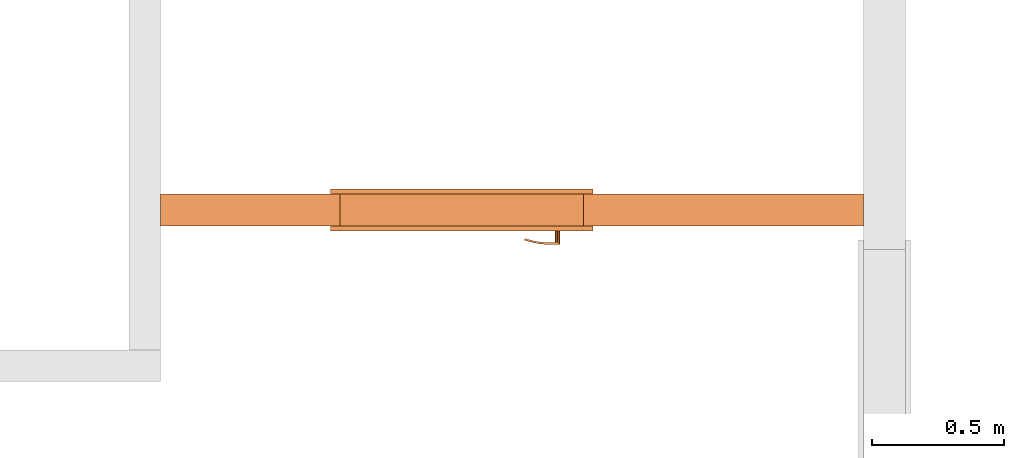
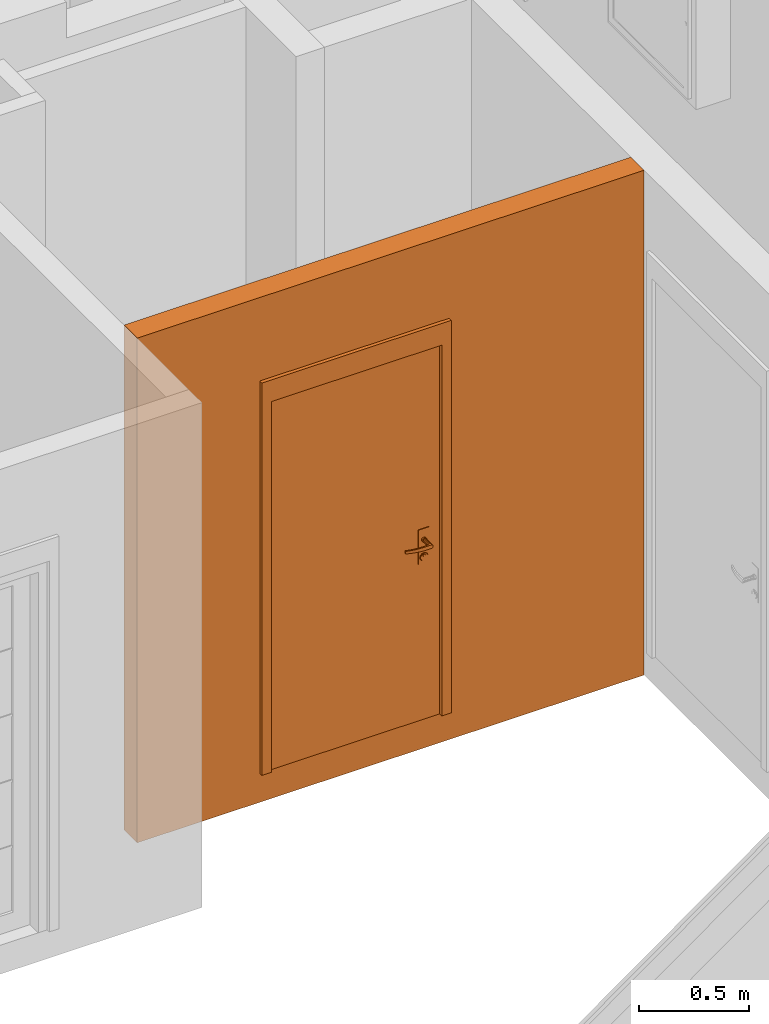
# One storey, part 30 of 66: 2 proxies, 1 opening.
"""IFC2X3 building model written with IfcOpenShell, lengths in millimetres."""

from ifc_helpers import new_model, entity, si_unit, converted_unit, derived_unit, money_unit, direction, frame, origin_with_axes, origin_2d_with_axis, place, context, subcontext, project, spatial, rectangle, extrude, open_shell, faceted_brep, surface_model, source, transform, mapped, material, type_object, element, fill, save


model = new_model("IFC2X3")

# Units and contexts
model_context = context("Model", 3, precision=0.01, world=origin_with_axes(), true_north=direction((0.34421633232, 0.938890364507)))
body_context = subcontext(model_context, "Body", "Model", "MODEL_VIEW")
ifc_project = project(units=[si_unit("LENGTHUNIT", "METRE", prefix="MILLI"), si_unit("AREAUNIT", "SQUARE_METRE"), si_unit("VOLUMEUNIT", "CUBIC_METRE"), converted_unit("PLANEANGLEUNIT", "DEGREE", entity("IfcPlaneAngleMeasure", 0.0174532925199), si_unit("PLANEANGLEUNIT", "RADIAN"), dimensions=[0, 0, 0, 0, 0, 0, 0]), si_unit("SOLIDANGLEUNIT", "STERADIAN"), money_unit("USD"), converted_unit("TIMEUNIT", "Year", entity("IfcTimeMeasure", 31556926.0), si_unit("TIMEUNIT", "SECOND"), dimensions=[0, 0, 1, 0, 0, 0, 0]), si_unit("MASSUNIT", "GRAM", prefix="KILO"), si_unit("THERMODYNAMICTEMPERATUREUNIT", "DEGREE_CELSIUS"), si_unit("LUMINOUSINTENSITYUNIT", "LUMEN"), si_unit("ENERGYUNIT", "JOULE", prefix="MEGA"), derived_unit("THERMALCONDUCTANCEUNIT", [(si_unit("POWERUNIT", "WATT"), 1), (si_unit("LENGTHUNIT", "METRE"), -1), (si_unit("THERMODYNAMICTEMPERATUREUNIT", "KELVIN"), -1)]), derived_unit("SPECIFICHEATCAPACITYUNIT", [(si_unit("ENERGYUNIT", "JOULE"), 1), (si_unit("MASSUNIT", "GRAM", prefix="KILO"), -1), (si_unit("THERMODYNAMICTEMPERATUREUNIT", "KELVIN"), -1)]), derived_unit("MASSDENSITYUNIT", [(si_unit("MASSUNIT", "GRAM", prefix="KILO"), 1), (si_unit("VOLUMEUNIT", "CUBIC_METRE"), -1)])], contexts=[model_context])

# Site, building, storey
site_placement = place(None, origin_with_axes())
site = spatial("IfcSite", under=ifc_project, at=site_placement, Name="USTRONIE MORSKIE", CompositionType="ELEMENT")
building_placement = place(site_placement, origin_with_axes())
building = spatial("IfcBuilding", under=site, at=building_placement, Name="Budynek", CompositionType="ELEMENT")
storey_placement = place(building_placement, frame((0.0, 0.0, 10000.0), z_axis=(0.0, 0.0, 1.0), x_axis=(1.0, 0.0, 0.0)))
storey = spatial("IfcBuildingStorey", under=building, at=storey_placement, Name="PIĘTRO 3", CompositionType="ELEMENT", Elevation=10000.0)

# Proxies, opening
ifc_material = material(Name="Bloczki silikatowe")
building_element_proxy_type_1 = type_object("IfcBuildingElementProxyType", Name="Bloczki silikatowe 120", PredefinedType="NOTDEFINED")
proxy_1_placement = place(storey_placement, frame((413217.920919, 724641.179437, -160.0), z_axis=(0.0, 0.0, 1.0), x_axis=(1.0, 0.0, 0.0)))
proxy_1 = element("IfcBuildingElementProxy", 1, at=proxy_1_placement, inside=storey, type_object=building_element_proxy_type_1, material=ifc_material, Name="SW-04", context=body_context, shape_type="Brep", body=[
    faceted_brep([(2720.0, -59.9999999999, 2800.0), (2720.0, 59.9999999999, 2800.0), (60.0, 59.9999999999, 2800.0), (60.0, -59.9999999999, 2800.0), (2720.0, -59.9999999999, 0.0), (2720.0, 59.9999999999, 0.0), (60.0, 59.9999999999, 0.0), (60.0, -59.9999999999, 0.0)], [[[0, 1, 2, 3]], [[1, 0, 4, 5]], [[1, 5, 6, 2]], [[7, 3, 2, 6]], [[4, 0, 3, 7]], [[5, 4, 7, 6]]]),
])
opening_placement = place(proxy_1_placement, frame((1200.0, -1.13686837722e-10, 160.0), z_axis=(0.0, 0.0, 1.0), x_axis=(1.0, 0.0, 0.0)))
opening = element("IfcOpeningElement", 2, at=opening_placement, cuts=proxy_1, Name="Dw.4", context=body_context, shape_type="SweptSolid", body=[
    extrude(rectangle(XDim=920.0, YDim=2070.0, at=origin_2d_with_axis()), frame((0.0, 120.0, 1035.0), z_axis=(0.0, -1.0, 0.0), x_axis=(-1.0, 0.0, 0.0)), (0.0, 0.0, 1.0), 360.0),
    extrude(rectangle(XDim=994.0, YDim=2177.0, at=origin_2d_with_axis()), frame((0.0, 60.0000000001, 1088.5), z_axis=(0.0, -1.0, 0.0), x_axis=(-1.0, 0.0, 0.0)), (0.0, 0.0, -1.0), 120.0),
    extrude(rectangle(XDim=994.0, YDim=2177.0, at=origin_2d_with_axis()), frame((0.0, -59.9999999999, 1088.5), z_axis=(0.0, 1.0, 0.0), x_axis=(-1.0, 0.0, 0.0)), (0.0, 0.0, -1.0), 120.0),
])
building_element_proxy_type_2 = type_object("IfcBuildingElementProxyType", Name="Drzwi 23", PredefinedType="NOTDEFINED")
shared_shape = source(origin_with_axes(), body_context, "Body", "SurfaceModel", [
    faceted_brep([(-460.0, -115.0, 0.0), (-435.0, -115.0, 0.0), (-435.0, -120.0, 0.0), (-460.0, -120.0, 0.0), (-460.0, -115.0, 2070.0), (-435.0, -115.0, 2045.0), (-435.0, -120.0, 2045.0), (-460.0, -120.0, 2070.0)], [[[0, 1, 2, 3]], [[0, 4, 5, 1]], [[1, 5, 6, 2]], [[3, 2, 6, 7]], [[4, 0, 3, 7]], [[5, 4, 7, 6]]]),
    faceted_brep([(460.0, -115.0, 2070.0), (435.0, -115.0, 2045.0), (435.0, -120.0, 2045.0), (460.0, -120.0, 2070.0), (460.0, -115.0, 0.0), (435.0, -115.0, 0.0), (435.0, -120.0, 0.0), (460.0, -120.0, 0.0)], [[[0, 1, 2, 3]], [[0, 4, 5, 1]], [[1, 5, 6, 2]], [[3, 2, 6, 7]], [[4, 0, 3, 7]], [[5, 4, 7, 6]]]),
    faceted_brep([(-435.0, -115.0, 2045.0), (435.0, -115.0, 2045.0), (435.0, -120.0, 2045.0), (-435.0, -120.0, 2045.0), (-460.0, -115.0, 2070.0), (460.0, -115.0, 2070.0), (460.0, -120.0, 2070.0), (-460.0, -120.0, 2070.0)], [[[0, 1, 2, 3]], [[0, 4, 5, 1]], [[1, 5, 6, 2]], [[3, 2, 6, 7]], [[4, 0, 3, 7]], [[5, 4, 7, 6]]]),
    faceted_brep([(-497.0, -139.0, 0.0), (-497.0, -120.0, 0.0), (-447.0, -120.0, 0.0), (-447.0, -139.0, 0.0), (-497.0, -139.0, 2177.0), (-497.0, -120.0, 2177.0), (-447.0, -120.0, 2057.0), (-447.0, -139.0, 2057.0)], [[[0, 1, 2, 3]], [[4, 5, 1, 0]], [[1, 5, 6, 2]], [[3, 2, 6, 7]], [[0, 3, 7, 4]], [[7, 6, 5, 4]]]),
    faceted_brep([(497.0, -139.0, 2177.0), (497.0, -120.0, 2177.0), (447.0, -120.0, 2057.0), (447.0, -139.0, 2057.0), (497.0, -139.0, 0.0), (497.0, -120.0, 0.0), (447.0, -120.0, 0.0), (447.0, -139.0, 0.0)], [[[0, 1, 2, 3]], [[4, 5, 1, 0]], [[1, 5, 6, 2]], [[3, 2, 6, 7]], [[0, 3, 7, 4]], [[7, 6, 5, 4]]]),
    faceted_brep([(-497.0, -139.0, 2177.0), (-497.0, -120.0, 2177.0), (-447.0, -120.0, 2057.0), (-447.0, -139.0, 2057.0), (497.0, -139.0, 2177.0), (497.0, -120.0, 2177.0), (447.0, -120.0, 2057.0), (447.0, -139.0, 2057.0)], [[[0, 1, 2, 3]], [[4, 5, 1, 0]], [[1, 5, 6, 2]], [[3, 2, 6, 7]], [[0, 3, 7, 4]], [[7, 6, 5, 4]]]),
    faceted_brep([(-497.0, 19.0, 0.0), (-447.0, 19.0, 0.0), (-447.0, 0.0, 0.0), (-497.0, 0.0, 0.0), (-497.0, 19.0, 2177.0), (-447.0, 19.0, 2057.0), (-447.0, 0.0, 2057.0), (-497.0, 0.0, 2177.0)], [[[0, 1, 2, 3]], [[0, 4, 5, 1]], [[1, 5, 6, 2]], [[3, 2, 6, 7]], [[4, 0, 3, 7]], [[5, 4, 7, 6]]]),
    faceted_brep([(497.0, 19.0, 2177.0), (447.0, 19.0, 2057.0), (447.0, 0.0, 2057.0), (497.0, 0.0, 2177.0), (497.0, 19.0, 0.0), (447.0, 19.0, 0.0), (447.0, 0.0, 0.0), (497.0, 0.0, 0.0)], [[[0, 1, 2, 3]], [[0, 4, 5, 1]], [[1, 5, 6, 2]], [[3, 2, 6, 7]], [[4, 0, 3, 7]], [[5, 4, 7, 6]]]),
    faceted_brep([(-497.0, 19.0, 2177.0), (-447.0, 19.0, 2057.0), (-447.0, 0.0, 2057.0), (-497.0, 0.0, 2177.0), (497.0, 19.0, 2177.0), (447.0, 19.0, 2057.0), (447.0, 0.0, 2057.0), (497.0, 0.0, 2177.0)], [[[0, 1, 2, 3]], [[0, 4, 5, 1]], [[1, 5, 6, 2]], [[3, 2, 6, 7]], [[4, 0, 3, 7]], [[5, 4, 7, 6]]]),
    faceted_brep([(-400.0, -40.0, 0.0), (-400.0, -40.0, 2000.0), (-400.0, -115.0, 2000.0), (-400.0, -115.0, 0.0), (-412.0, -40.0, 2000.0), (-412.0, -40.0, 0.0), (-412.0, 0.0, 2000.0), (-460.0, 0.0, 2000.0), (-460.0, -115.0, 2000.0), (-460.0, -115.0, 0.0), (-460.0, 0.0, 0.0), (-412.0, 0.0, 0.0)], [[[0, 1, 2, 3]], [[4, 1, 0, 5]], [[4, 6, 7, 8, 2, 1]], [[3, 2, 8, 9]], [[5, 0, 3, 9, 10, 11]], [[6, 4, 5, 11]], [[6, 11, 10, 7]], [[10, 9, 8, 7]]]),
    faceted_brep([(412.0, -40.0, 2000.0), (400.0, -40.0, 2000.0), (400.0, -115.0, 2000.0), (460.0, -115.0, 2000.0), (460.0, 0.0, 2000.0), (412.0, 0.0, 2000.0), (412.0, -40.0, 0.0), (400.0, -40.0, 0.0), (400.0, -115.0, 0.0), (460.0, -115.0, 0.0), (460.0, 0.0, 0.0), (412.0, 0.0, 0.0)], [[[0, 1, 2, 3, 4, 5]], [[1, 0, 6, 7]], [[1, 7, 8, 2]], [[3, 2, 8, 9]], [[4, 3, 9, 10]], [[11, 5, 4, 10]], [[0, 5, 11, 6]], [[6, 11, 10, 9, 8, 7]]]),
    faceted_brep([(-412.0, 0.0, 2012.0), (-412.0, 0.0, 2000.0), (-460.0, 0.0, 2000.0), (-460.0, 0.0, 2070.0), (460.0, 0.0, 2070.0), (460.0, 0.0, 2000.0), (412.0, 0.0, 2000.0), (412.0, 0.0, 2012.0), (-412.0, -40.0, 2012.0), (-412.0, -40.0, 2000.0), (-400.0, -40.0, 2000.0), (-400.0, -115.0, 2000.0), (-460.0, -115.0, 2000.0), (-460.0, -115.0, 2070.0), (460.0, -115.0, 2070.0), (460.0, -115.0, 2000.0), (412.0, -40.0, 2000.0), (400.0, -115.0, 2000.0), (400.0, -40.0, 2000.0), (412.0, -40.0, 2012.0)], [[[0, 1, 2, 3, 4, 5, 6, 7]], [[1, 0, 8, 9]], [[9, 10, 11, 12, 2, 1]], [[2, 12, 13, 3]], [[3, 13, 14, 4]], [[4, 14, 15, 5]], [[16, 6, 5, 15, 17, 18]], [[7, 6, 16, 19]], [[0, 7, 19, 8]], [[16, 18, 10, 9, 8, 19]], [[10, 18, 17, 11]], [[17, 15, 14, 13, 12, 11]]]),
    faceted_brep([(-390.5, -40.0, 1060.0), (-390.5, -43.0, 1060.0), (-333.5, -43.0, 1060.0), (-333.5, -40.0, 1060.0), (-390.5, -40.0, 870.0), (-390.5, -43.0, 870.0), (-333.5, -43.0, 870.0), (-333.5, -40.0, 870.0)], [[[0, 1, 2, 3]], [[4, 5, 1, 0]], [[1, 5, 6, 2]], [[3, 2, 6, 7]], [[0, 3, 7, 4]], [[7, 6, 5, 4]]]),
    faceted_brep([(-362.0, -104.0, 990.0), (-362.0, -111.0, 990.0), (-367.0, -111.0, 991.339745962), (-367.0, -104.0, 991.339745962), (-337.0, -104.0, 990.0), (-337.0, -111.0, 990.0), (-337.0, -111.0, 1010.0), (-362.0, -111.0, 1010.0), (-367.0, -111.0, 1008.66025404), (-370.660254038, -111.0, 1005.0), (-372.0, -111.0, 1000.0), (-370.660254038, -111.0, 995.0), (-370.660254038, -104.0, 995.0), (-372.0, -104.0, 1000.0), (-370.660254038, -104.0, 1005.0), (-367.0, -104.0, 1008.66025404), (-362.0, -104.0, 1010.0), (-337.0, -104.0, 1010.0)], [[[0, 1, 2, 3]], [[4, 5, 1, 0]], [[1, 5, 6, 7, 8, 9, 10, 11, 2]], [[3, 2, 11, 12]], [[0, 3, 12, 13, 14, 15, 16, 17, 4]], [[17, 6, 5, 4]], [[16, 7, 6, 17]], [[15, 8, 7, 16]], [[14, 9, 8, 15]], [[13, 10, 9, 14]], [[12, 11, 10, 13]]]),
    surface_model("IfcShellBasedSurfaceModel", [(-337.0, -104.0, 1010.0), (-323.596090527, -111.0, 1009.60730092), (-323.901717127, -104.0, 1009.60730092), (-337.0, -111.0, 1010.0), (-296.890283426, -108.663544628, 1008.82190275), (-323.901717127, -104.0, 990.392699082), (-337.0, -104.0, 990.0), (-337.0, -111.0, 990.0), (-323.596090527, -111.0, 990.392699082), (-296.890283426, -108.663544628, 991.178097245), (-297.804837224, -101.716818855, 1008.82190275), (-297.804837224, -101.716818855, 991.178097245), (-270.489735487, -104.008415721, 991.963495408), (-270.489735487, -104.008415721, 1008.03650459), (-272.006256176, -97.1678329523, 1008.03650459), (-272.006256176, -97.1678329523, 991.963495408), (-244.59537082, -97.0700416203, 992.748893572), (-244.59537082, -97.0700416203, 1007.25110643), (-246.702316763, -90.3876628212, 1007.25110643), (-246.702316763, -90.3876628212, 992.748893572), (-236.538795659, -94.1376880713, 993.0), (-236.538795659, -94.1376880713, 1007.0), (-238.829442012, -87.5221707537, 1007.0), (-238.829442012, -87.5221707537, 993.0)], [open_shell([[[0, 1, 2]], [[0, 3, 1]], [[2, 1, 4]], [[0, 2, 5, 6]], [[3, 7, 8, 1]], [[1, 8, 9, 4]], [[2, 4, 10]], [[2, 10, 11, 5]], [[5, 7, 6]], [[5, 8, 7]], [[11, 9, 8]], [[4, 9, 12, 13]], [[10, 4, 13]], [[10, 14, 15, 11]], [[11, 8, 5]], [[15, 9, 11]], [[15, 12, 9]], [[13, 12, 16, 17]], [[10, 13, 14]], [[14, 18, 19, 15]], [[19, 12, 15]], [[19, 16, 12]], [[17, 16, 20, 21]], [[14, 13, 17]], [[14, 17, 18]], [[18, 22, 23, 19]], [[23, 16, 19]], [[23, 20, 16]], [[22, 21, 20, 23]], [[18, 17, 21]], [[18, 21, 22]]])]),
    faceted_brep([(-351.607695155, -53.0, 994.0), (-350.741669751, -43.0, 993.5), (-349.0, -43.0, 1000.0), (-350.0, -53.0, 1000.0), (-356.0, -53.0, 989.607695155), (-355.5, -43.0, 988.741669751), (-362.0, -43.0, 987.0), (-368.5, -43.0, 988.741669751), (-373.258330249, -43.0, 993.5), (-375.0, -43.0, 1000.0), (-373.258330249, -43.0, 1006.5), (-368.5, -43.0, 1011.25833025), (-362.0, -43.0, 1013.0), (-355.5, -43.0, 1011.25833025), (-350.741669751, -43.0, 1006.5), (-351.607695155, -53.0, 1006.0), (-356.0, -53.0, 1010.39230485), (-362.0, -53.0, 1012.0), (-368.0, -53.0, 1010.39230485), (-372.392304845, -53.0, 1006.0), (-374.0, -53.0, 1000.0), (-372.392304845, -53.0, 994.0), (-368.0, -53.0, 989.607695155), (-362.0, -53.0, 988.0)], [[[0, 1, 2, 3]], [[4, 5, 1, 0]], [[2, 1, 5, 6, 7, 8, 9, 10, 11, 12, 13, 14]], [[3, 2, 14, 15]], [[3, 15, 16, 17, 18, 19, 20, 21, 22, 23, 4, 0]], [[23, 6, 5, 4]], [[22, 7, 6, 23]], [[21, 8, 7, 22]], [[20, 9, 8, 21]], [[19, 10, 9, 20]], [[18, 11, 10, 19]], [[17, 12, 11, 18]], [[16, 13, 12, 17]], [[15, 14, 13, 16]]]),
    faceted_brep([(-344.679491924, -47.0, 895.0), (-342.947441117, -43.0, 894.0), (-340.0, -43.0, 905.0), (-342.0, -47.0, 905.0), (-352.0, -47.0, 887.679491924), (-351.0, -43.0, 885.947441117), (-362.0, -43.0, 883.0), (-373.0, -43.0, 885.947441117), (-381.052558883, -43.0, 894.0), (-384.0, -43.0, 905.0), (-381.052558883, -43.0, 916.0), (-373.0, -43.0, 924.052558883), (-362.0, -43.0, 927.0), (-351.0, -43.0, 924.052558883), (-342.947441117, -43.0, 916.0), (-344.679491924, -47.0, 915.0), (-352.0, -47.0, 922.320508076), (-362.0, -47.0, 925.0), (-372.0, -47.0, 922.320508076), (-379.320508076, -47.0, 915.0), (-382.0, -47.0, 905.0), (-379.320508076, -47.0, 895.0), (-372.0, -47.0, 887.679491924), (-362.0, -47.0, 885.0)], [[[0, 1, 2, 3]], [[4, 5, 1, 0]], [[2, 1, 5, 6, 7, 8, 9, 10, 11, 12, 13, 14]], [[3, 2, 14, 15]], [[3, 15, 16, 17, 18, 19, 20, 21, 22, 23, 4, 0]], [[23, 6, 5, 4]], [[22, 7, 6, 23]], [[21, 8, 7, 22]], [[20, 9, 8, 21]], [[19, 10, 9, 20]], [[18, 11, 10, 19]], [[17, 12, 11, 18]], [[16, 13, 12, 17]], [[15, 14, 13, 16]]]),
    faceted_brep([(-357.050252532, -49.0, 909.050252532), (-356.343145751, -47.0, 908.343145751), (-354.0, -47.0, 914.0), (-355.0, -49.0, 914.0), (-362.0, -49.0, 907.0), (-362.0, -47.0, 906.0), (-367.656854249, -47.0, 908.343145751), (-370.0, -47.0, 914.0), (-367.656854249, -47.0, 919.656854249), (-362.0, -47.0, 922.0), (-356.343145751, -47.0, 919.656854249), (-357.050252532, -49.0, 918.949747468), (-362.0, -49.0, 921.0), (-366.949747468, -49.0, 918.949747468), (-369.0, -49.0, 914.0), (-366.949747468, -49.0, 909.050252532)], [[[0, 1, 2, 3]], [[4, 5, 1, 0]], [[2, 1, 5, 6, 7, 8, 9, 10]], [[3, 2, 10, 11]], [[3, 11, 12, 13, 14, 15, 4, 0]], [[15, 6, 5, 4]], [[14, 7, 6, 15]], [[13, 8, 7, 14]], [[12, 9, 8, 13]], [[11, 10, 9, 12]]]),
    faceted_brep([(-362.0, -53.0, 1010.0), (-362.0, -104.0, 1010.0), (-357.0, -104.0, 1008.66025404), (-357.0, -53.0, 1008.66025404), (-367.0, -53.0, 1008.66025404), (-367.0, -104.0, 1008.66025404), (-370.660254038, -104.0, 1005.0), (-372.0, -104.0, 1000.0), (-370.660254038, -104.0, 995.0), (-367.0, -104.0, 991.339745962), (-362.0, -104.0, 990.0), (-357.0, -104.0, 991.339745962), (-353.339745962, -104.0, 995.0), (-352.0, -104.0, 1000.0), (-353.339745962, -104.0, 1005.0), (-353.339745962, -53.0, 1005.0), (-352.0, -53.0, 1000.0), (-353.339745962, -53.0, 995.0), (-357.0, -53.0, 991.339745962), (-362.0, -53.0, 990.0), (-367.0, -53.0, 991.339745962), (-370.660254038, -53.0, 995.0), (-372.0, -53.0, 1000.0), (-370.660254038, -53.0, 1005.0)], [[[0, 1, 2, 3]], [[4, 5, 1, 0]], [[1, 5, 6, 7, 8, 9, 10, 11, 12, 13, 14, 2]], [[3, 2, 14, 15]], [[0, 3, 15, 16, 17, 18, 19, 20, 21, 22, 23, 4]], [[23, 6, 5, 4]], [[22, 7, 6, 23]], [[21, 8, 7, 22]], [[20, 9, 8, 21]], [[19, 10, 9, 20]], [[18, 11, 10, 19]], [[17, 12, 11, 18]], [[16, 13, 12, 17]], [[15, 14, 13, 16]]]),
    faceted_brep([(-390.5, 0.0, 1060.0), (-333.5, 0.0, 1060.0), (-333.5, 3.0, 1060.0), (-390.5, 3.0, 1060.0), (-390.5, 0.0, 870.0), (-333.5, 0.0, 870.0), (-333.5, 3.0, 870.0), (-390.5, 3.0, 870.0)], [[[0, 1, 2, 3]], [[0, 4, 5, 1]], [[1, 5, 6, 2]], [[3, 2, 6, 7]], [[4, 0, 3, 7]], [[5, 4, 7, 6]]]),
    faceted_brep([(-362.0, 64.0, 990.0), (-367.0, 64.0, 991.339745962), (-367.0, 71.0, 991.339745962), (-362.0, 71.0, 990.0), (-337.0, 64.0, 990.0), (-337.0, 64.0, 1010.0), (-362.0, 64.0, 1010.0), (-367.0, 64.0, 1008.66025404), (-370.660254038, 64.0, 1005.0), (-372.0, 64.0, 1000.0), (-370.660254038, 64.0, 995.0), (-370.660254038, 71.0, 995.0), (-372.0, 71.0, 1000.0), (-370.660254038, 71.0, 1005.0), (-367.0, 71.0, 1008.66025404), (-362.0, 71.0, 1010.0), (-337.0, 71.0, 1010.0), (-337.0, 71.0, 990.0)], [[[0, 1, 2, 3]], [[0, 4, 5, 6, 7, 8, 9, 10, 1]], [[1, 10, 11, 2]], [[3, 2, 11, 12, 13, 14, 15, 16, 17]], [[4, 0, 3, 17]], [[5, 4, 17, 16]], [[6, 5, 16, 15]], [[7, 6, 15, 14]], [[8, 7, 14, 13]], [[9, 8, 13, 12]], [[10, 9, 12, 11]]]),
    surface_model("IfcShellBasedSurfaceModel", [(-337.0, 64.0, 1010.0), (-323.901717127, 64.0, 1009.60730092), (-323.596090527, 71.0, 1009.60730092), (-337.0, 64.0, 990.0), (-323.901717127, 64.0, 990.392699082), (-296.890283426, 68.6635446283, 1008.82190275), (-337.0, 71.0, 1010.0), (-337.0, 71.0, 990.0), (-297.804837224, 61.716818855, 991.178097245), (-297.804837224, 61.716818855, 1008.82190275), (-296.890283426, 68.6635446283, 991.178097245), (-323.596090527, 71.0, 990.392699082), (-272.006256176, 57.1678329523, 991.963495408), (-272.006256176, 57.1678329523, 1008.03650459), (-270.489735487, 64.0084157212, 1008.03650459), (-270.489735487, 64.0084157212, 991.963495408), (-246.702316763, 50.3876628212, 992.748893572), (-246.702316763, 50.3876628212, 1007.25110643), (-244.59537082, 57.0700416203, 1007.25110643), (-244.59537082, 57.0700416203, 992.748893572), (-238.829442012, 47.5221707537, 993.0), (-238.829442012, 47.5221707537, 1007.0), (-236.538795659, 54.1376880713, 1007.0), (-236.538795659, 54.1376880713, 993.0)], [open_shell([[[0, 1, 2]], [[0, 3, 4, 1]], [[1, 5, 2]], [[0, 2, 6]], [[4, 3, 7]], [[1, 4, 8, 9]], [[1, 9, 5]], [[2, 5, 10, 11]], [[6, 2, 11, 7]], [[4, 7, 11]], [[8, 4, 11]], [[9, 8, 12, 13]], [[9, 14, 5]], [[5, 14, 15, 10]], [[8, 11, 10]], [[12, 8, 10]], [[13, 12, 16, 17]], [[9, 13, 14]], [[14, 18, 19, 15]], [[12, 10, 15]], [[16, 12, 15]], [[17, 16, 20, 21]], [[13, 17, 18]], [[13, 18, 14]], [[18, 22, 23, 19]], [[16, 15, 19]], [[20, 16, 19]], [[21, 20, 23, 22]], [[17, 21, 22]], [[17, 22, 18]], [[20, 19, 23]]])]),
    faceted_brep([(-351.607695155, 13.0, 994.0), (-350.0, 13.0, 1000.0), (-349.0, 3.0, 1000.0), (-350.741669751, 3.0, 993.5), (-356.0, 13.0, 989.607695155), (-362.0, 13.0, 988.0), (-368.0, 13.0, 989.607695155), (-372.392304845, 13.0, 994.0), (-374.0, 13.0, 1000.0), (-372.392304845, 13.0, 1006.0), (-368.0, 13.0, 1010.39230485), (-362.0, 13.0, 1012.0), (-356.0, 13.0, 1010.39230485), (-351.607695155, 13.0, 1006.0), (-350.741669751, 3.0, 1006.5), (-355.5, 3.0, 1011.25833025), (-362.0, 3.0, 1013.0), (-368.5, 3.0, 1011.25833025), (-373.258330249, 3.0, 1006.5), (-375.0, 3.0, 1000.0), (-373.258330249, 3.0, 993.5), (-368.5, 3.0, 988.741669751), (-362.0, 3.0, 987.0), (-355.5, 3.0, 988.741669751)], [[[0, 1, 2, 3]], [[1, 0, 4, 5, 6, 7, 8, 9, 10, 11, 12, 13]], [[1, 13, 14, 2]], [[2, 14, 15, 16, 17, 18, 19, 20, 21, 22, 23, 3]], [[4, 0, 3, 23]], [[5, 4, 23, 22]], [[6, 5, 22, 21]], [[7, 6, 21, 20]], [[8, 7, 20, 19]], [[9, 8, 19, 18]], [[10, 9, 18, 17]], [[11, 10, 17, 16]], [[12, 11, 16, 15]], [[13, 12, 15, 14]]]),
    faceted_brep([(-344.679491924, 7.0, 895.0), (-342.0, 7.0, 905.0), (-340.0, 3.0, 905.0), (-342.947441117, 3.0, 894.0), (-352.0, 7.0, 887.679491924), (-362.0, 7.0, 885.0), (-372.0, 7.0, 887.679491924), (-379.320508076, 7.0, 895.0), (-382.0, 7.0, 905.0), (-379.320508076, 7.0, 915.0), (-372.0, 7.0, 922.320508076), (-362.0, 7.0, 925.0), (-352.0, 7.0, 922.320508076), (-344.679491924, 7.0, 915.0), (-342.947441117, 3.0, 916.0), (-351.0, 3.0, 924.052558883), (-362.0, 3.0, 927.0), (-373.0, 3.0, 924.052558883), (-381.052558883, 3.0, 916.0), (-384.0, 3.0, 905.0), (-381.052558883, 3.0, 894.0), (-373.0, 3.0, 885.947441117), (-362.0, 3.0, 883.0), (-351.0, 3.0, 885.947441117)], [[[0, 1, 2, 3]], [[1, 0, 4, 5, 6, 7, 8, 9, 10, 11, 12, 13]], [[1, 13, 14, 2]], [[2, 14, 15, 16, 17, 18, 19, 20, 21, 22, 23, 3]], [[4, 0, 3, 23]], [[5, 4, 23, 22]], [[6, 5, 22, 21]], [[7, 6, 21, 20]], [[8, 7, 20, 19]], [[9, 8, 19, 18]], [[10, 9, 18, 17]], [[11, 10, 17, 16]], [[12, 11, 16, 15]], [[13, 12, 15, 14]]]),
    faceted_brep([(-357.050252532, 9.0, 909.050252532), (-355.0, 9.0, 914.0), (-354.0, 7.0, 914.0), (-356.343145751, 7.0, 908.343145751), (-362.0, 9.0, 907.0), (-366.949747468, 9.0, 909.050252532), (-369.0, 9.0, 914.0), (-366.949747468, 9.0, 918.949747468), (-362.0, 9.0, 921.0), (-357.050252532, 9.0, 918.949747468), (-356.343145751, 7.0, 919.656854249), (-362.0, 7.0, 922.0), (-367.656854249, 7.0, 919.656854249), (-370.0, 7.0, 914.0), (-367.656854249, 7.0, 908.343145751), (-362.0, 7.0, 906.0)], [[[0, 1, 2, 3]], [[1, 0, 4, 5, 6, 7, 8, 9]], [[1, 9, 10, 2]], [[2, 10, 11, 12, 13, 14, 15, 3]], [[4, 0, 3, 15]], [[5, 4, 15, 14]], [[6, 5, 14, 13]], [[7, 6, 13, 12]], [[8, 7, 12, 11]], [[9, 8, 11, 10]]]),
    faceted_brep([(-362.0, 13.0, 1010.0), (-357.0, 13.0, 1008.66025404), (-357.0, 64.0, 1008.66025404), (-362.0, 64.0, 1010.0), (-367.0, 13.0, 1008.66025404), (-370.660254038, 13.0, 1005.0), (-372.0, 13.0, 1000.0), (-370.660254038, 13.0, 995.0), (-367.0, 13.0, 991.339745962), (-362.0, 13.0, 990.0), (-357.0, 13.0, 991.339745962), (-353.339745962, 13.0, 995.0), (-352.0, 13.0, 1000.0), (-353.339745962, 13.0, 1005.0), (-353.339745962, 64.0, 1005.0), (-352.0, 64.0, 1000.0), (-353.339745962, 64.0, 995.0), (-357.0, 64.0, 991.339745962), (-362.0, 64.0, 990.0), (-367.0, 64.0, 991.339745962), (-370.660254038, 64.0, 995.0), (-372.0, 64.0, 1000.0), (-370.660254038, 64.0, 1005.0), (-367.0, 64.0, 1008.66025404)], [[[0, 1, 2, 3]], [[0, 4, 5, 6, 7, 8, 9, 10, 11, 12, 13, 1]], [[1, 13, 14, 2]], [[3, 2, 14, 15, 16, 17, 18, 19, 20, 21, 22, 23]], [[4, 0, 3, 23]], [[5, 4, 23, 22]], [[6, 5, 22, 21]], [[7, 6, 21, 20]], [[8, 7, 20, 19]], [[9, 8, 19, 18]], [[10, 9, 18, 17]], [[11, 10, 17, 16]], [[12, 11, 16, 15]], [[13, 12, 15, 14]]]),
    faceted_brep([(412.0, 0.0, 0.0), (412.0, -40.0, 0.0), (-412.0, -40.0, 0.0), (-412.0, 0.0, 0.0), (412.0, 0.0, 2012.0), (412.0, -40.0, 2012.0), (-412.0, -40.0, 2012.0), (-412.0, 0.0, 2012.0)], [[[0, 1, 2, 3]], [[4, 5, 1, 0]], [[1, 5, 6, 2]], [[3, 2, 6, 7]], [[0, 3, 7, 4]], [[7, 6, 5, 4]]]),
])
proxy_2_placement = place(opening_placement, frame((400.0, 0.0, 0.0), z_axis=(0.0, 0.0, 1.0), x_axis=(-1.0, 0.0, 0.0)))
proxy_2 = element("IfcBuildingElementProxy", 3, at=proxy_2_placement, inside=storey, type_object=building_element_proxy_type_2, Name="Dw.4", context=body_context, shape_type="MappedRepresentation", body=[
    mapped(shared_shape, transform((400.0, 59.9999999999, 0.0))),
])
fill(opening, proxy_2)

save(model, "model.ifc")
